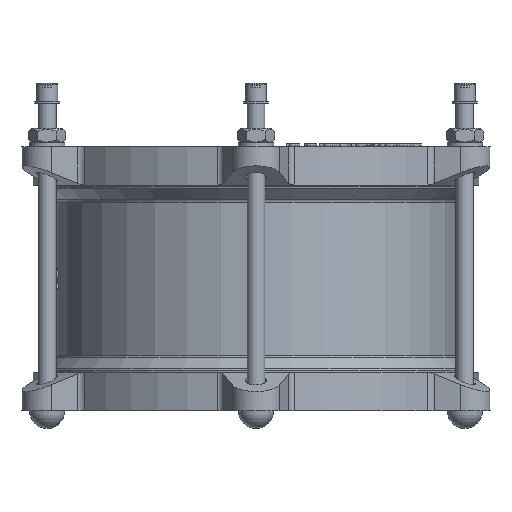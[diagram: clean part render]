
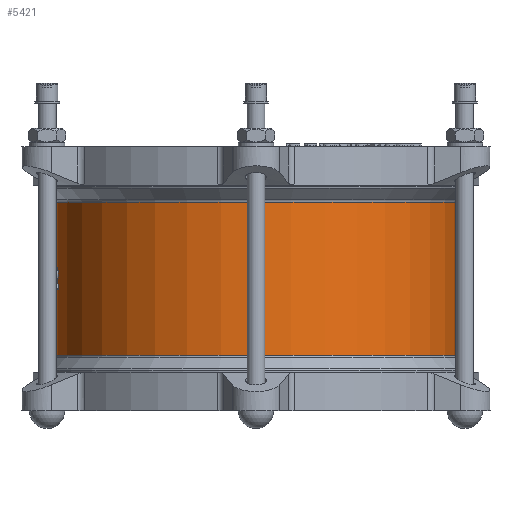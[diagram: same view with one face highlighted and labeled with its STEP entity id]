
A CAD part, left-side view. The second image highlights one B-rep face of the part: STEP entity #5421.
In plain terms, the highlighted cylindrical face has radius 136 mm (diameter 272 mm), a full revolution.
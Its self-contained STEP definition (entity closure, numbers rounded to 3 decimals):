
#5421=ADVANCED_FACE('',(#10097,#10099),#10101,.T.);
#10097=FACE_OUTER_BOUND('',#10098,.T.);
#10098=EDGE_LOOP('',(#14959));
#10099=FACE_OUTER_BOUND('',#10100,.T.);
#10100=EDGE_LOOP('',(#14960));
#10101=CYLINDRICAL_SURFACE('',#10102,136.);
#10102=AXIS2_PLACEMENT_3D('',#10103,#10104,#10105);
#10103=CARTESIAN_POINT('',(0.,0.,52.714));
#10104=DIRECTION('',(0.,0.,-1.));
#10105=DIRECTION('',(0.,1.,0.));
#14959=ORIENTED_EDGE('',*,*,#17073,.T.);
#14960=ORIENTED_EDGE('',*,*,#17074,.F.);
#17073=EDGE_CURVE('',#19945,#19945,#19946,.T.);
#17074=EDGE_CURVE('',#19947,#19947,#19948,.T.);
#19945=VERTEX_POINT('',#29934);
#19946=CIRCLE('',#29935,136.);
#19947=VERTEX_POINT('',#29939);
#19948=CIRCLE('',#29940,136.);
#29934=CARTESIAN_POINT('',(0.,136.,51.679));
#29935=AXIS2_PLACEMENT_3D('',#29936,#29937,#29938);
#29936=CARTESIAN_POINT('',(0.,0.,51.679));
#29937=DIRECTION('',(0.,0.,-1.));
#29938=DIRECTION('',(0.,1.,0.));
#29939=CARTESIAN_POINT('',(0.,136.,-51.679));
#29940=AXIS2_PLACEMENT_3D('',#29941,#29942,#29943);
#29941=CARTESIAN_POINT('',(0.,0.,-51.679));
#29942=DIRECTION('',(0.,0.,-1.));
#29943=DIRECTION('',(0.,1.,0.));
